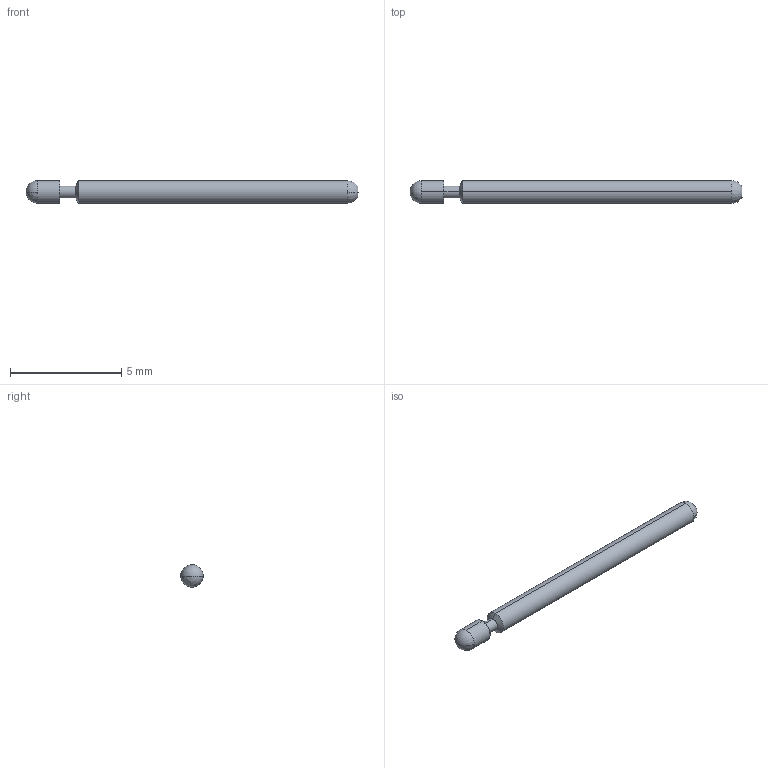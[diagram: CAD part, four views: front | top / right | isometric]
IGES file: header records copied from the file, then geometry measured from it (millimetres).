
Start section: SolidWorks IGES file using analytic representation for surfaces
Global section: file name: Z:\probe solid model mockups\Solidworks models\IGES Files\HPA-1\HPA-1D RECD.IGS; native system: SolidWorks 2006 by SolidWorks Corporation; preprocessor: SolidWorks 2006 by SolidWorks Corporation; author: tsakatani; date: 071220.111935; units: inch
Bounding box: 14.94 x 1.02 x 1.02 mm (x, y, z)
Surface area: 47.6 mm2 (no closed solid volume)
Topology: 0 solids, 0 shells, 14 faces, 104 edges, 102 vertices
Faces by surface type: revolution 12, bspline 2
